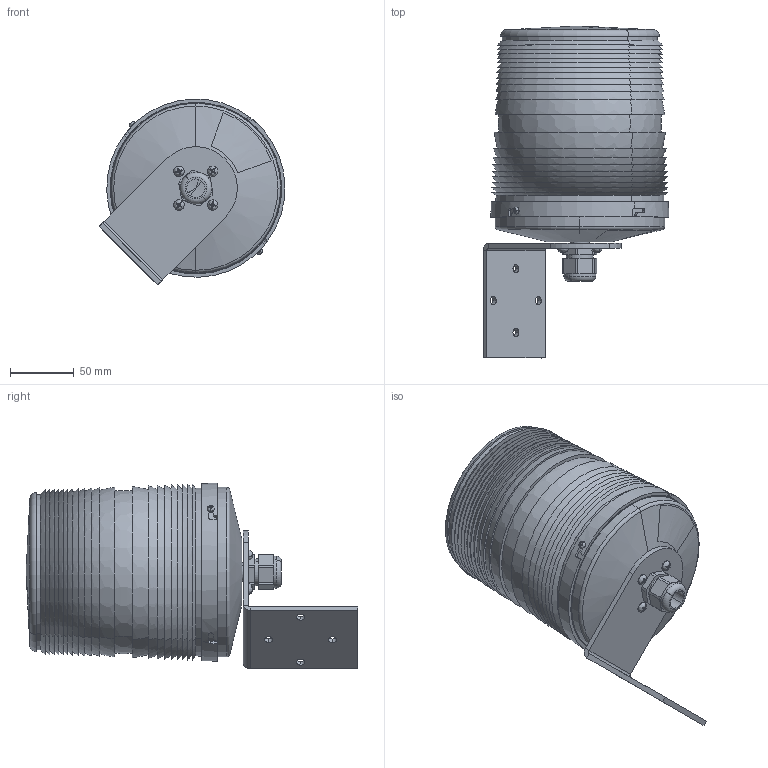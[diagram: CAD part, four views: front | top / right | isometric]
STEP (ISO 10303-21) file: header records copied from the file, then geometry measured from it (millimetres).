
FILE_DESCRIPTION (( 'STEP AP214' ), '1' );
FILE_NAME ('PMF 2015-bracket.STEP', '2010-11-10T13:27:45', ( ' ' ), ( ' ' ), 'SwSTEP 2.0', 'SolidWorks 2010', '' );
FILE_SCHEMA (( 'AUTOMOTIVE_DESIGN' ));
Length unit declared in the file: millimetre
Products named in the file (1): PMF 2015-bracket
Bounding box: 145.96 x 260.5 x 145.96 mm (x, y, z)
Surface area: 167060.8 mm2 (no closed solid volume)
Topology: 0 solids, 13 shells, 249 faces, 763 edges, 530 vertices
Faces by surface type: plane 119, torus 52, cylinder 52, cone 14, bspline 12
Entity records: 12093 total; most frequent: CARTESIAN_POINT 2673, DIRECTION 1420, ORIENTED_EDGE 1251, EDGE_CURVE 761, AXIS2_PLACEMENT_3D 565, VERTEX_POINT 530, CIRCLE 327, EDGE_LOOP 295
